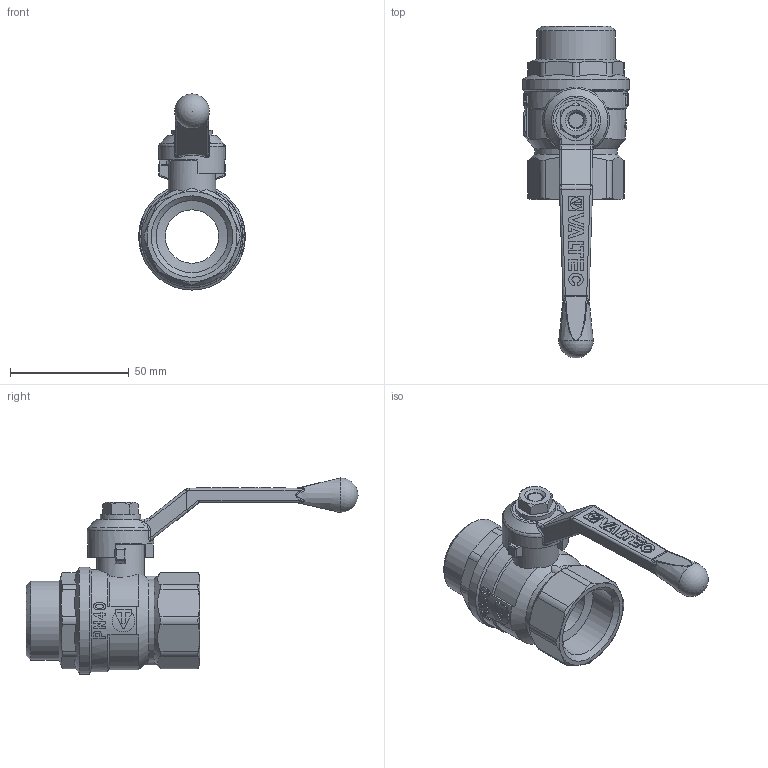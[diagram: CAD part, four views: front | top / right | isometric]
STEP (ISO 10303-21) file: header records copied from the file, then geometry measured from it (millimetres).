
FILE_DESCRIPTION(('STEP AP203'), '1');
FILE_NAME('VT.121.GN.06', '', ('UNSPECIFIED'), ('UNSPECIFIED'), 'C3D Converter', 'C3D Toolkit', '');
FILE_SCHEMA(('CONFIG_CONTROL_DESIGN'));
Length unit declared in the file: millimetre
Products named in the file (1): VT.121.GN.06
Bounding box: 45 x 139.8 x 82.55 mm (x, y, z)
Volume: 70654.9 mm3; surface area: 23864.7 mm2
Topology: 1 solids, 1 shells, 598 faces, 1528 edges, 974 vertices
Faces by surface type: plane 344, cylinder 156, bspline 52, cone 29, sphere 9, torus 7, extrusion 1
Full cylindrical faces by diameter (mm): 6.8 x1, 14.5 x1, 17 x1, 20 x1, 22.5 x1, 25 x1, 28 x1, 30.292 x1, 33.249 x1, 43 x1, 45 x1
Entity records: 26960 total; most frequent: CARTESIAN_POINT 13452, ORIENTED_EDGE 2956, DIRECTION 2495, EDGE_CURVE 1478, VERTEX_POINT 968, VECTOR 869, LINE 868, AXIS2_PLACEMENT_3D 813
